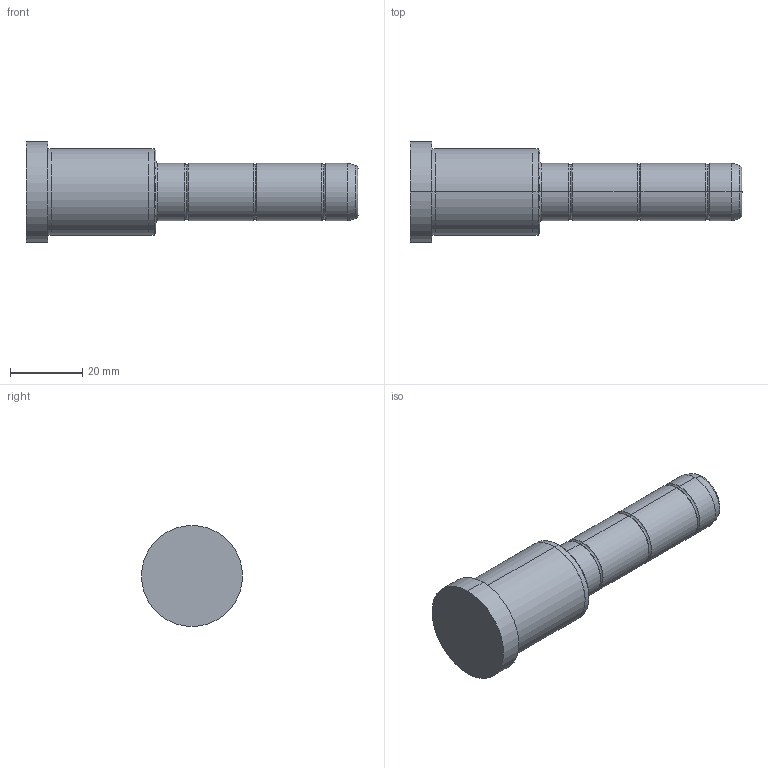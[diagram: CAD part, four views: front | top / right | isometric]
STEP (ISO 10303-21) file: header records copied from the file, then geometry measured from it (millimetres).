
FILE_DESCRIPTION( ( 'STEP AP203' ), '1' );
FILE_NAME( 'D:/Delta 3 D/D02/16/D02 - 16x36x56.step', '2003-01-04T13:14:09', ( ' ' ), ( ' ' ), 'XStep 1.0', ' ', ' ' );
FILE_SCHEMA( ( 'CONFIG_CONTROL_DESIGN' ) );
Length unit declared in the file: metre
Products named in the file (1): 1
Bounding box: 92 x 28 x 28 mm (x, y, z)
Volume: 28418.2 mm3; surface area: 6831.5 mm2
Topology: 1 solids, 1 shells, 42 faces, 82 edges, 46 vertices
Faces by surface type: bspline 22, revolution 20
Entity records: 1325 total; most frequent: CARTESIAN_POINT 517, ORIENTED_EDGE 164, DIRECTION 134, EDGE_CURVE 82, AXIS2_PLACEMENT_3D 47, EDGE_LOOP 46, VERTEX_POINT 46, CIRCLE 46
